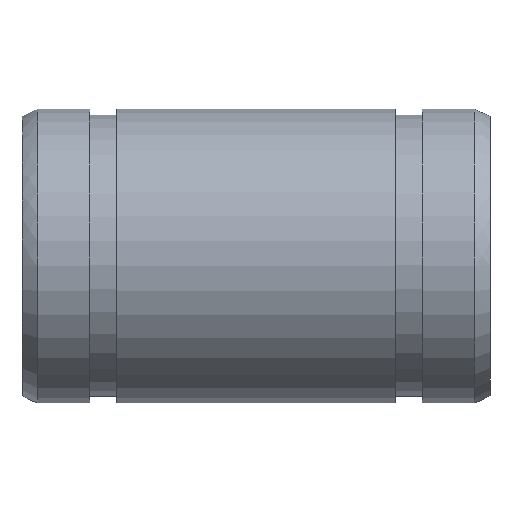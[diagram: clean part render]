
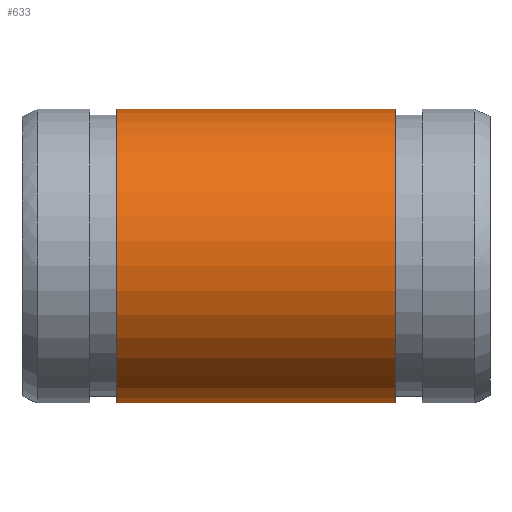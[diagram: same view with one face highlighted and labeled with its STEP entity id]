
A CAD part, front view. The second image highlights one B-rep face of the part: STEP entity #633.
In plain terms, the highlighted cylindrical face has radius 6 mm (diameter 12 mm), a partial arc.
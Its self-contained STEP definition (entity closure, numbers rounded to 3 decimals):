
#171=CARTESIAN_POINT('',(3.85,0.75,-5.953));
#172=VERTEX_POINT('',#171);
#179=CARTESIAN_POINT('',(15.15,0.75,-5.953));
#180=VERTEX_POINT('',#179);
#181=CARTESIAN_POINT('',(15.15,0.75,-5.953));
#182=DIRECTION('',(-1.0,0.0,0.0));
#183=VECTOR('',#182,11.3);
#184=LINE('',#181,#183);
#185=EDGE_CURVE('',#180,#172,#184,.T.);
#227=CARTESIAN_POINT('',(15.15,-0.75,-5.953));
#228=VERTEX_POINT('',#227);
#235=CARTESIAN_POINT('',(3.85,-0.75,-5.953));
#236=VERTEX_POINT('',#235);
#237=CARTESIAN_POINT('',(3.85,-0.75,-5.953));
#238=DIRECTION('',(1.0,0.0,0.0));
#239=VECTOR('',#238,11.3);
#240=LINE('',#237,#239);
#241=EDGE_CURVE('',#236,#228,#240,.T.);
#606=CARTESIAN_POINT('',(15.15,0.0,0.));
#607=DIRECTION('',(-1.0,0.0,0.0));
#608=DIRECTION('',(0.0,0.0,1.0));
#609=AXIS2_PLACEMENT_3D('',#606,#607,#608);
#610=CIRCLE('',#609,6.);
#611=EDGE_CURVE('',#228,#180,#610,.T.);
#616=CARTESIAN_POINT('',(9.5,0.0,0.));
#617=DIRECTION('',(-1.0,0.0,0.));
#618=DIRECTION('',(0.0,0.0,1.0));
#619=AXIS2_PLACEMENT_3D('',#616,#617,#618);
#620=CYLINDRICAL_SURFACE('',#619,6.);
#621=ORIENTED_EDGE('',*,*,#241,.T.);
#622=ORIENTED_EDGE('',*,*,#611,.T.);
#623=ORIENTED_EDGE('',*,*,#185,.T.);
#624=CARTESIAN_POINT('',(3.85,0.0,0.));
#625=DIRECTION('',(-1.0,0.0,0.0));
#626=DIRECTION('',(0.0,0.0,1.0));
#627=AXIS2_PLACEMENT_3D('',#624,#625,#626);
#628=CIRCLE('',#627,6.);
#629=EDGE_CURVE('',#236,#172,#628,.T.);
#630=ORIENTED_EDGE('',*,*,#629,.F.);
#631=EDGE_LOOP('',(#621,#622,#623,#630));
#632=FACE_OUTER_BOUND('',#631,.T.);
#633=ADVANCED_FACE('',(#632),#620,.T.);
